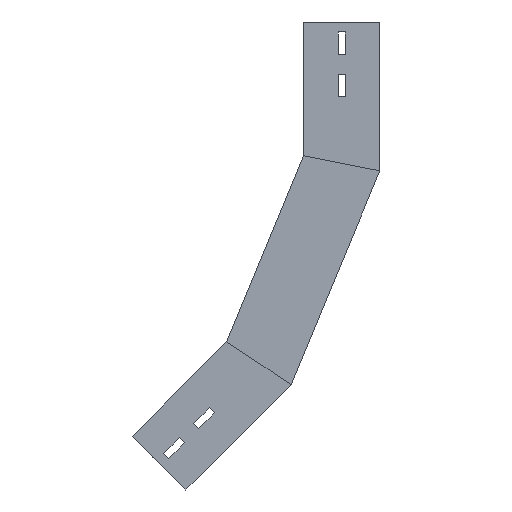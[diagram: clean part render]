
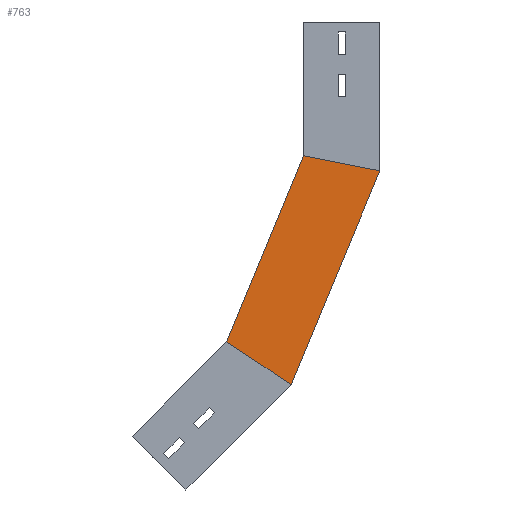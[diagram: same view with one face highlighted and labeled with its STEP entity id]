
A CAD part, left-side view. The second image highlights one B-rep face of the part: STEP entity #763.
In plain terms, the highlighted planar face has unit normal (-1, 0, 0) as drawn and (1, 0, 0) by its records, which use the part's own axes.
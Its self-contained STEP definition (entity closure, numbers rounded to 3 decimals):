
#68 = VERTEX_POINT ( 'NONE', #684 ) ;
#93 = EDGE_LOOP ( 'NONE', ( #704, #150, #127, #428 ) ) ;
#105 = VECTOR ( 'NONE', #1349, 1000. ) ;
#127 = ORIENTED_EDGE ( 'NONE', *, *, #851, .T. ) ;
#150 = ORIENTED_EDGE ( 'NONE', *, *, #196, .T. ) ;
#184 = CARTESIAN_POINT ( 'NONE',  ( 0., 0., -146.6 ) ) ;
#196 = EDGE_CURVE ( 'NONE', #1077, #68, #328, .T. ) ;
#247 = DIRECTION ( 'NONE',  ( -1., 0., 0. ) ) ;
#264 = VECTOR ( 'NONE', #917, 1000. ) ;
#276 = LINE ( 'NONE', #184, #105 ) ;
#283 = DIRECTION ( 'NONE',  ( 0., 0., 1. ) ) ;
#299 = LINE ( 'NONE', #891, #1088 ) ;
#327 = CARTESIAN_POINT ( 'NONE',  ( 0., 0., -146.6 ) ) ;
#328 = LINE ( 'NONE', #1159, #264 ) ;
#422 = LINE ( 'NONE', #1467, #1158 ) ;
#428 = ORIENTED_EDGE ( 'NONE', *, *, #441, .F. ) ;
#441 = EDGE_CURVE ( 'NONE', #1195, #1299, #422, .T. ) ;
#462 = EDGE_CURVE ( 'NONE', #1077, #1195, #299, .T. ) ;
#509 = AXIS2_PLACEMENT_3D ( 'NONE', #327, #247, #283 ) ;
#684 = CARTESIAN_POINT ( 'NONE',  ( 0., 0., -146.6 ) ) ;
#704 = ORIENTED_EDGE ( 'NONE', *, *, #462, .F. ) ;
#763 = ADVANCED_FACE ( 'NONE', ( #1132 ), #907, .F. ) ;
#851 = EDGE_CURVE ( 'NONE', #68, #1299, #276, .T. ) ;
#870 = CARTESIAN_POINT ( 'NONE',  ( 0., 87.328, -357.429 ) ) ;
#877 = DIRECTION ( 'NONE',  ( 0., -0.831, -0.556 ) ) ;
#891 = CARTESIAN_POINT ( 'NONE',  ( 0., 69.291, -117.899 ) ) ;
#907 = PLANE ( 'NONE',  #509 ) ;
#917 = DIRECTION ( 'NONE',  ( 0., -0.981, -0.195 ) ) ;
#974 = CARTESIAN_POINT ( 'NONE',  ( 0., 150.91, -314.945 ) ) ;
#1003 = DIRECTION ( 'NONE',  ( 0., 0.383, -0.924 ) ) ;
#1054 = CARTESIAN_POINT ( 'NONE',  ( 0., 75., -131.682 ) ) ;
#1077 = VERTEX_POINT ( 'NONE', #1054 ) ;
#1088 = VECTOR ( 'NONE', #1003, 1000. ) ;
#1132 = FACE_OUTER_BOUND ( 'NONE', #93, .T. ) ;
#1158 = VECTOR ( 'NONE', #877, 1000. ) ;
#1159 = CARTESIAN_POINT ( 'NONE',  ( 0., 28.051, -141.02 ) ) ;
#1195 = VERTEX_POINT ( 'NONE', #974 ) ;
#1299 = VERTEX_POINT ( 'NONE', #870 ) ;
#1349 = DIRECTION ( 'NONE',  ( 0., 0.383, -0.924 ) ) ;
#1467 = CARTESIAN_POINT ( 'NONE',  ( 0., 124.345, -332.696 ) ) ;
